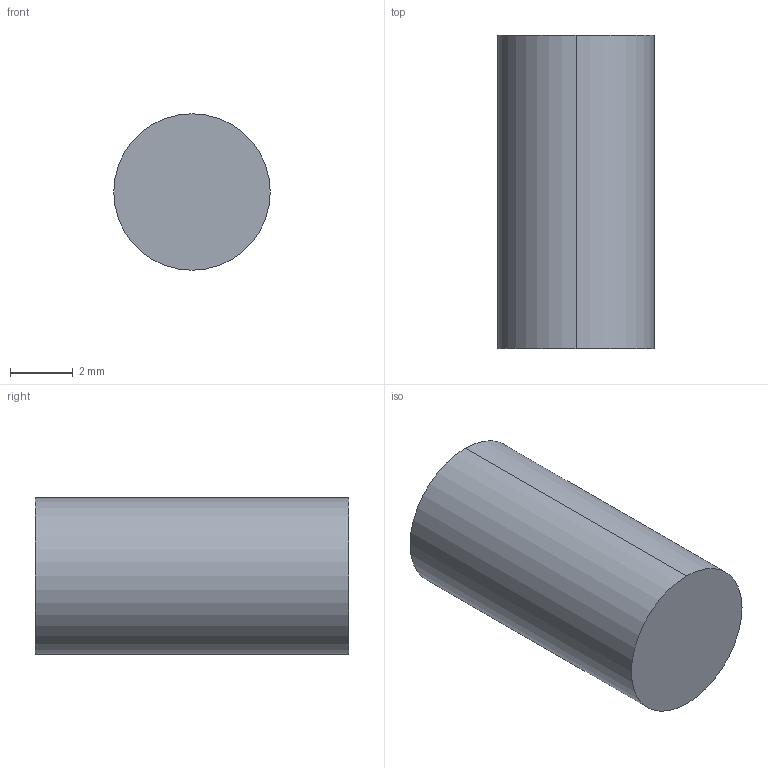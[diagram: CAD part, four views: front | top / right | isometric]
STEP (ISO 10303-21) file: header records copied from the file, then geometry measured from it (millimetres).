
FILE_DESCRIPTION (( 'STEP AP203' ), '1' );
FILE_NAME ('pin -2.STEP', '2025-11-09T20:01:38', ( 'msi i7' ), ( '' ), 'SwSTEP 2.0', 'SolidWorks 2025', '' );
FILE_SCHEMA (( 'CONFIG_CONTROL_DESIGN' ));
Length unit declared in the file: millimetre
Products named in the file (1): pin -2
Bounding box: 5 x 10 x 5 mm (x, y, z)
Volume: 196.3 mm3; surface area: 196.3 mm2
Topology: 1 solids, 1 shells, 4 faces, 6 edges, 4 vertices
Faces by surface type: cylinder 2, plane 2
Entity records: 171 total; most frequent: DIRECTION 20, CARTESIAN_POINT 15, ORIENTED_EDGE 12, AXIS2_PLACEMENT_3D 9, PERSON_AND_ORGANIZATION 8, EDGE_CURVE 6, CC_DESIGN_PERSON_AND_ORGANIZATION_ASSIGNMENT 5, PERSON_AND_ORGANIZATION_ROLE 5
